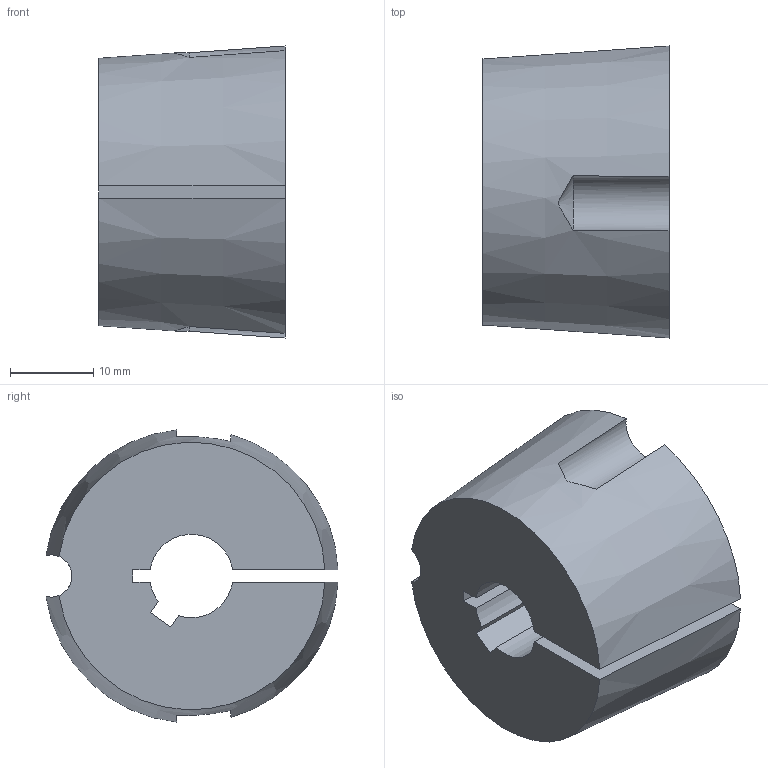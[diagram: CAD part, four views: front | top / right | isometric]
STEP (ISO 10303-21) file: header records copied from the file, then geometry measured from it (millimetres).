
FILE_DESCRIPTION( ( 'STEP AP203' ), '1' );
FILE_NAME( 'D:/export/antriebselemente/spannbuchsen_und_spannsaetze/taper-spannbuchsen_1008_bis_5050/taper-spannbuchsen_62250110Isometric_2.stp', '2018-12-11T11:10:55', ( '' ), ( '' ), ' ', 'PARTsolutions', ' ' );
FILE_SCHEMA( ( 'CONFIG_CONTROL_DESIGN' ) );
Length unit declared in the file: millimetre
Products named in the file (1): _taper-spannbuchsen_62250110
Bounding box: 22.3 x 35.01 x 35.02 mm (x, y, z)
Volume: 16868.7 mm3; surface area: 5363.1 mm2
Topology: 1 solids, 1 shells, 20 faces, 54 edges, 36 vertices
Faces by surface type: plane 10, cylinder 6, cone 4
Entity records: 736 total; most frequent: CARTESIAN_POINT 187, ORIENTED_EDGE 108, DIRECTION 104, EDGE_CURVE 54, AXIS2_PLACEMENT_3D 39, VERTEX_POINT 36, LINE 26, VECTOR 26
